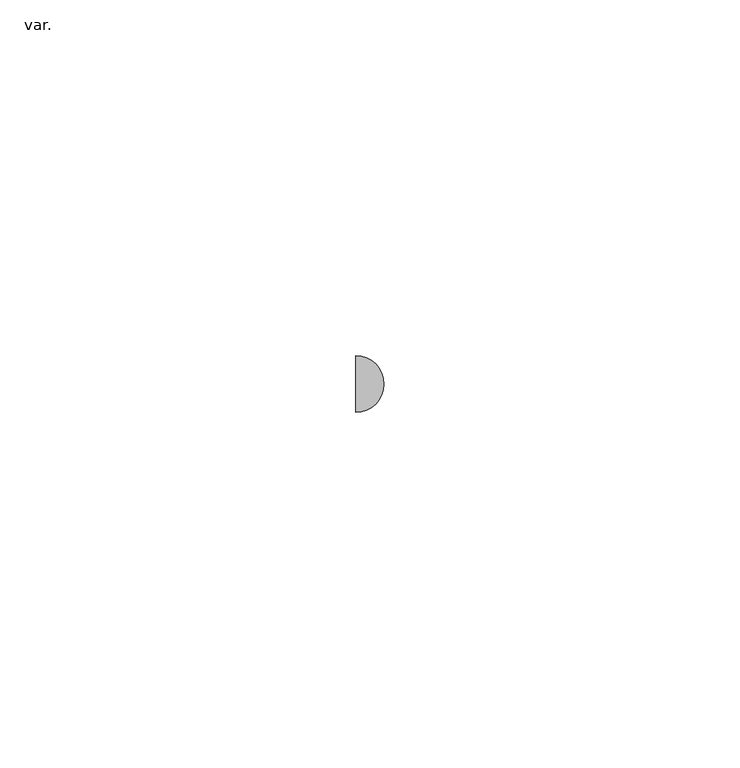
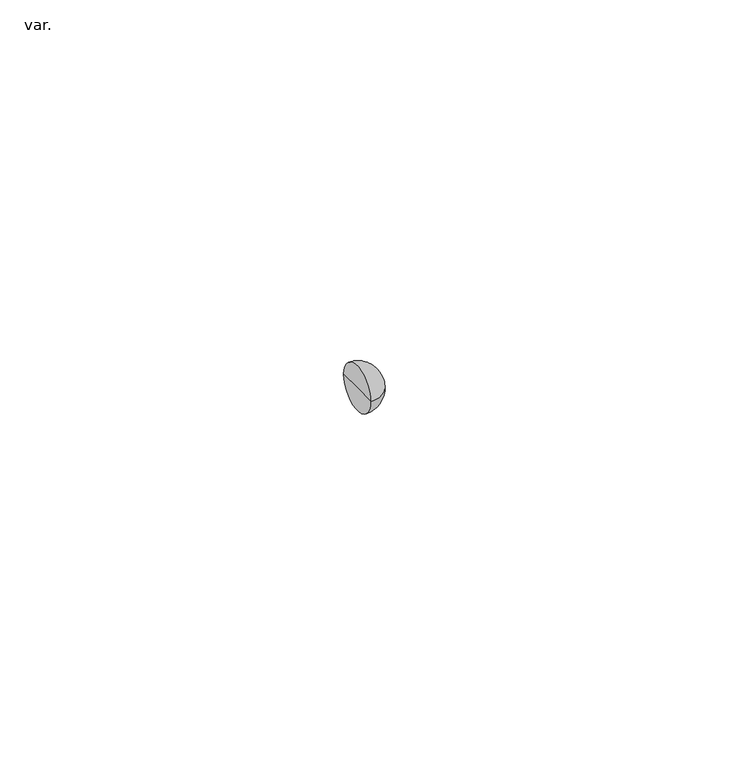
"""IFC4 building model written with IfcOpenShell, lengths in millimetres: pipe fitting geometry, NLRS_52_PIF_UN_Vacurain Flex multi reducer_Dyka : var.."""

from ifc_helpers import new_model, si_unit, point, frame, origin, origin_with_axes, place, context, project, spatial, circle_curve, ellipse_curve, trimmed, source, transform, mapped, element, save
from ifc_brep_helpers import plane_surface, revolved_surface, advanced_brep


def var_65803a14(model_context):
    return source(origin(), model_context, "Body", "AdvancedBrep", [
        advanced_brep(
        [(0.0, -4.0, 0.0), (0.0, 4.0, 0.0), (4.0, 0.0, 0.0), (0.0, 0.0, 0.0)],
        [
            (0, 1, circle_curve(frame((0.0, 0.0, 0.0), z_axis=(1.0, 0.0, 0.0), x_axis=(0.0, 1.0, 0.0)), 4.0)),
            (1, 2, circle_curve(frame((0.0, 0.0, 0.0), z_axis=(0.0, 0.0, -1.0), x_axis=(1.0, 0.0, 0.0)), 4.0)),
            (2, 0, circle_curve(frame((0.0, 0.0, 0.0), z_axis=(0.0, 0.0, -1.0), x_axis=(1.0, 0.0, 0.0)), 4.0)),
            (1, 0, circle_curve(frame((0.0, 0.0, 0.0), z_axis=(1.0, 0.0, 0.0), x_axis=(0.0, 1.0, 0.0)), 4.0)),
            (3, 1),
            (0, 3),
        ],
        [
            revolved_surface(trimmed(ellipse_curve(origin_with_axes(), 4.0, 4.0), [point((4.0, 0.0, 0.0))], [point((0.0, 4.0, 0.0))], True, "CARTESIAN"), (-164.1610143, 0.0, 0.0), (-1.0, 0.0, 0.0)),
            plane_surface(frame((0.0, 0.0, 0.0), z_axis=(-1.0, 0.0, 0.0), x_axis=(0.0, 1.0, 0.0))),
        ],
        [
            (0, [[1, 2, 3]]),
            (0, [[4, -3, -2]]),
            (1, [[5, -1, 6]]),
            (1, [[-6, -4, -5]]),
        ],
    ),
    ])


if __name__ == "__main__":
    model = new_model("IFC4")
    model_context = context("Model", 3, world=origin())
    ifc_project = project(units=[si_unit("LENGTHUNIT", "METRE", prefix="MILLI")], contexts=[model_context])
    site = spatial("IfcSite", under=ifc_project)
    building = spatial("IfcBuilding", under=site)
    placement = place(None, origin())
    var_shape = var_65803a14(model_context)
    element("IfcPipeFitting", 1, ObjectType="NLRS_52_PIF_UN_Vacurain Flex multi reducer_Dyka : var.", at=placement, inside=building, context=model_context, shape_type="MappedRepresentation", body=[
        mapped(var_shape, transform((0.0, 0.0, 0.0), x_axis=(1.0, 0.0, 0.0), y_axis=(0.0, 1.0, 0.0), z_axis=(0.0, 0.0, 1.0))),
    ])
    save(model, "model.ifc")
